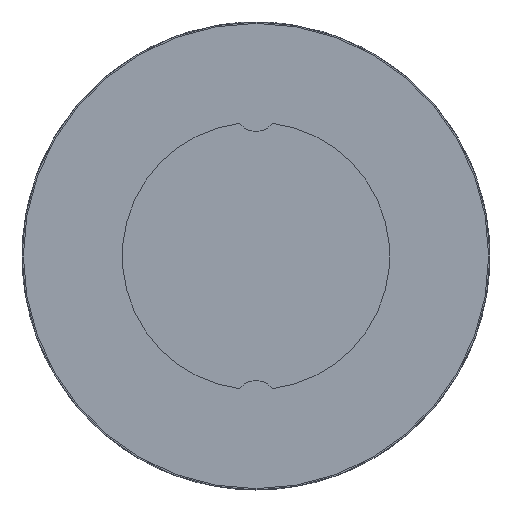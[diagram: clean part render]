
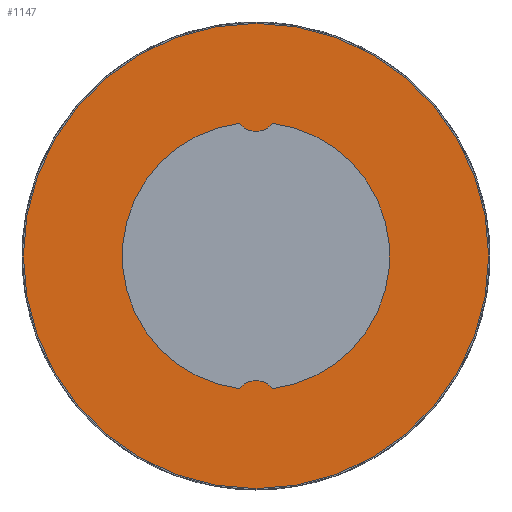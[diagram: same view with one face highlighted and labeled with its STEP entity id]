
A CAD part, left-side view. The second image highlights one B-rep face of the part: STEP entity #1147.
In plain terms, the highlighted planar face has unit normal (-1, 0, 0).
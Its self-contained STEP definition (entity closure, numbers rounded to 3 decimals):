
#808=CARTESIAN_POINT('',(0.0,-1.249,9.922));
#809=VERTEX_POINT('',#808);
#816=CARTESIAN_POINT('',(0.0,1.249,9.922));
#817=VERTEX_POINT('',#816);
#818=CARTESIAN_POINT('',(0.0,0.,10.903));
#819=DIRECTION('',(1.0,0.0,0.0));
#820=DIRECTION('',(0.0,-0.786,-0.618));
#821=AXIS2_PLACEMENT_3D('',#818,#819,#820);
#822=CIRCLE('',#821,1.588);
#823=EDGE_CURVE('',#809,#817,#822,.T.);
#850=CARTESIAN_POINT('',(0.0,1.249,-9.922));
#851=VERTEX_POINT('',#850);
#858=CARTESIAN_POINT('',(0.0,-1.249,-9.922));
#859=VERTEX_POINT('',#858);
#860=CARTESIAN_POINT('',(0.0,0.,-10.903));
#861=DIRECTION('',(1.0,0.0,0.0));
#862=DIRECTION('',(0.0,0.786,0.618));
#863=AXIS2_PLACEMENT_3D('',#860,#861,#862);
#864=CIRCLE('',#863,1.588);
#865=EDGE_CURVE('',#851,#859,#864,.T.);
#882=CARTESIAN_POINT('',(0.,0.0,0.));
#883=DIRECTION('',(-1.0,0.0,0.0));
#884=DIRECTION('',(0.0,0.0,1.0));
#885=AXIS2_PLACEMENT_3D('',#882,#883,#884);
#886=CIRCLE('',#885,10.);
#887=EDGE_CURVE('',#817,#851,#886,.T.);
#914=CARTESIAN_POINT('',(0.,0.0,0.));
#915=DIRECTION('',(-1.0,0.0,0.0));
#916=DIRECTION('',(0.0,0.0,1.0));
#917=AXIS2_PLACEMENT_3D('',#914,#915,#916);
#918=CIRCLE('',#917,10.);
#919=EDGE_CURVE('',#859,#809,#918,.T.);
#1118=CARTESIAN_POINT('',(0.0,0.0,17.4));
#1119=VERTEX_POINT('',#1118);
#1120=CARTESIAN_POINT('',(0.,0.0,0.));
#1121=DIRECTION('',(-1.0,0.0,0.0));
#1122=DIRECTION('',(0.0,0.0,1.0));
#1123=AXIS2_PLACEMENT_3D('',#1120,#1121,#1122);
#1124=CIRCLE('',#1123,17.4);
#1125=EDGE_CURVE('',#1119,#1119,#1124,.T.);
#1133=CARTESIAN_POINT('',(0.0,0.0,13.7));
#1134=DIRECTION('',(-1.0,0.0,0.0));
#1135=DIRECTION('',(0.0,0.0,1.0));
#1136=AXIS2_PLACEMENT_3D('',#1133,#1134,#1135);
#1137=PLANE('',#1136);
#1138=ORIENTED_EDGE('',*,*,#1125,.T.);
#1139=EDGE_LOOP('',(#1138));
#1140=FACE_OUTER_BOUND('',#1139,.T.);
#1141=ORIENTED_EDGE('',*,*,#919,.F.);
#1142=ORIENTED_EDGE('',*,*,#865,.F.);
#1143=ORIENTED_EDGE('',*,*,#887,.F.);
#1144=ORIENTED_EDGE('',*,*,#823,.F.);
#1145=EDGE_LOOP('',(#1141,#1142,#1143,#1144));
#1146=FACE_BOUND('',#1145,.T.);
#1147=ADVANCED_FACE('',(#1140,#1146),#1137,.T.);
